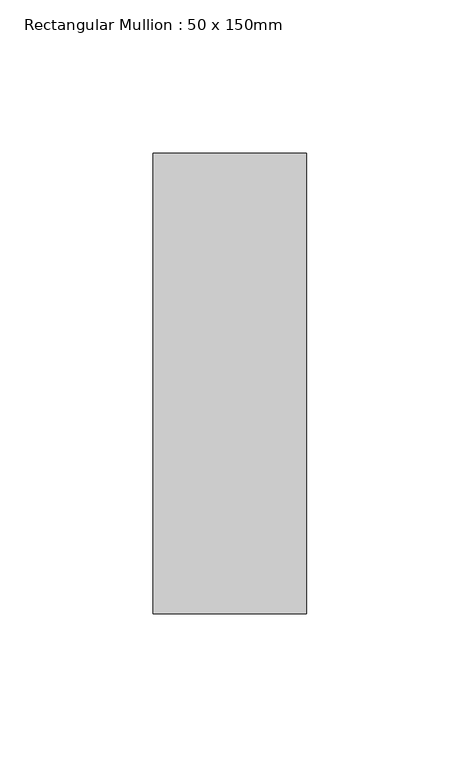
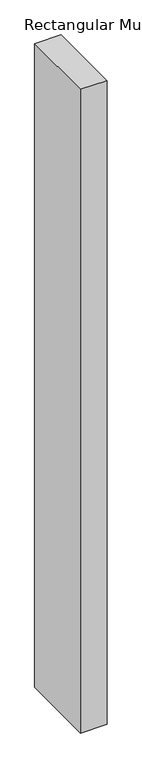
"""IFC4 building model written with IfcOpenShell, lengths in millimetres: member geometry, Rectangular Mullion : 50 x 150mm."""

import ifcopenshell
import ifcopenshell.guid

model = None  # the IFC model being written
_history = None  # IfcOwnerHistory: only IFC2X3 demands one
_inside = {}  # id of a spatial element -> (the spatial element, [elements in it])
_under = {}  # id of a project, library or spatial element -> (it, [spatial elements below it])
_declared = {}  # id of a project -> (the project, [libraries it declares])
_typed = {}  # id of a type object -> (the type object, [elements of that type])
_made_of = {}  # id of a material, layer set ... -> (it, [elements and type objects made of it])


def new_model(schema):
    """Start an empty IFC model of exactly this schema.

    Asked for "IFC4X3", IfcOpenShell would pick the latest addendum, in which some entities
    have other attributes; the version numbers below select the first issue.
    IFC2X3 requires an IfcOwnerHistory on every rooted entity: one is made here for all.
    """
    global model, _history
    if schema == "IFC4X3":
        model = ifcopenshell.file(schema_version=(4, 3, 0, 0))
    else:
        model = ifcopenshell.file(schema=schema)
    _inside.clear()
    _under.clear()
    _declared.clear()
    _typed.clear()
    _made_of.clear()
    _history = None
    if model.schema == "IFC2X3":
        org = make("IfcOrganization", Name="unknown")
        user = make(
            "IfcPersonAndOrganization",
            ThePerson=make("IfcPerson", FamilyName="unknown"),
            TheOrganization=org,
        )
        app = make(
            "IfcApplication",
            ApplicationDeveloper=org,
            Version="unknown",
            ApplicationFullName="unknown",
            ApplicationIdentifier="unknown",
        )
        _history = make(
            "IfcOwnerHistory",
            OwningUser=user,
            OwningApplication=app,
            ChangeAction="ADDED",
            CreationDate=0,
        )
    return model


def make(cls, **values):
    """One entity of the class cls with the attributes given. An attribute that is None is left unset."""
    return model.create_entity(
        cls, **{name: value for name, value in values.items() if value is not None}
    )


def rooted(cls, **values):
    """An entity with a GlobalId (a new one), such as an element, a storey or a relation."""
    return make(cls, GlobalId=ifcopenshell.guid.new(), OwnerHistory=_history, **values)


def si_unit(unit_type, name, prefix=None):
    """IfcSIUnit, for example si_unit("LENGTHUNIT", "METRE", prefix="MILLI")."""
    return make("IfcSIUnit", UnitType=unit_type, Prefix=prefix, Name=name)


def assignment(units):
    """IfcUnitAssignment: the units of a project."""
    return None if units is None else make("IfcUnitAssignment", Units=units)


def point(xyz):
    """IfcCartesianPoint."""
    return None if xyz is None else make("IfcCartesianPoint", Coordinates=xyz)


def direction(xyz):
    """IfcDirection."""
    return None if xyz is None else make("IfcDirection", DirectionRatios=xyz)


def frame(location, z_axis=None, x_axis=None):
    """IfcAxis2Placement3D, a coordinate frame: its origin and axes. An axis left out is left unset."""
    return make(
        "IfcAxis2Placement3D",
        Location=point(location),
        Axis=direction(z_axis),
        RefDirection=direction(x_axis),
    )


def origin():
    """The frame at (0, 0, 0) with its axes left unset."""
    return frame((0.0, 0.0, 0.0))


def place(relative_to, where):
    """IfcLocalPlacement: puts the frame where relative to a parent placement (None: the world)."""
    return make(
        "IfcLocalPlacement", PlacementRelTo=relative_to, RelativePlacement=where
    )


def context(
    kind, dimensions, precision=None, world=None, true_north=None, identifier=None
):
    """IfcGeometricRepresentationContext, for example the 3D "Model" context."""
    return make(
        "IfcGeometricRepresentationContext",
        ContextIdentifier=identifier,
        ContextType=kind,
        CoordinateSpaceDimension=dimensions,
        Precision=precision,
        WorldCoordinateSystem=world,
        TrueNorth=true_north,
    )


def project(units=None, contexts=None):
    """IfcProject with its units and contexts."""
    return rooted(
        "IfcProject",
        Name="project",
        RepresentationContexts=contexts,
        UnitsInContext=assignment(units),
    )


def spatial(cls, under=None, at=None, **own):
    """A site, building, storey or space (cls), placed at a placement, below another one or the project."""
    s = rooted(cls, ObjectPlacement=at, **own)
    if under is not None:
        _under.setdefault(under.id(), (under, []))[1].append(s)
    return s


def polyline(points):
    """IfcPolyline through the points."""
    return make("IfcPolyline", Points=[point(p) for p in points])


def outline(outer, holes=None, kind="AREA"):
    """IfcArbitraryClosedProfileDef: a profile drawn as a closed curve; with holes, ...WithVoids."""
    if holes is None:
        return make("IfcArbitraryClosedProfileDef", ProfileType=kind, OuterCurve=outer)
    return make(
        "IfcArbitraryProfileDefWithVoids",
        ProfileType=kind,
        OuterCurve=outer,
        InnerCurves=holes,
    )


def extrude(swept, where, along, depth):
    """IfcExtrudedAreaSolid: the profile swept, set in the frame where, extruded along a direction by depth."""
    return make(
        "IfcExtrudedAreaSolid",
        SweptArea=swept,
        Position=where,
        ExtrudedDirection=direction(along),
        Depth=depth,
    )


def shape(context_of_items, identifier, shape_type, items):
    """IfcShapeRepresentation: the items that make up one representation, for example the "Body"."""
    return make(
        "IfcShapeRepresentation",
        ContextOfItems=context_of_items,
        RepresentationIdentifier=identifier,
        RepresentationType=shape_type,
        Items=items,
    )


def source(mapping_origin, context_of_items, identifier, shape_type, items):
    """IfcRepresentationMap: a shape defined once, which mapped items show again and again."""
    return make(
        "IfcRepresentationMap",
        MappingOrigin=mapping_origin,
        MappedRepresentation=shape(context_of_items, identifier, shape_type, items),
    )


def transform(
    local_origin,
    x_axis=None,
    y_axis=None,
    z_axis=None,
    scale=None,
    scale2=None,
    scale3=None,
    uniform=True,
):
    """IfcCartesianTransformationOperator3D, or its non-uniform kind. x_axis, y_axis, z_axis: its Axis1, 2, 3."""
    if uniform:
        return make(
            "IfcCartesianTransformationOperator3D",
            Axis1=direction(x_axis),
            Axis2=direction(y_axis),
            LocalOrigin=point(local_origin),
            Scale=scale,
            Axis3=direction(z_axis),
        )
    return make(
        "IfcCartesianTransformationOperator3DnonUniform",
        Axis1=direction(x_axis),
        Axis2=direction(y_axis),
        LocalOrigin=point(local_origin),
        Scale=scale,
        Axis3=direction(z_axis),
        Scale2=scale2,
        Scale3=scale3,
    )


def mapped(mapping_source, mapping_target):
    """IfcMappedItem: shows the shape of a source again, moved by a transform."""
    return make(
        "IfcMappedItem", MappingSource=mapping_source, MappingTarget=mapping_target
    )


def made_of(thing, what):
    """Note that an element or type object is made of a material, layer set ...; save() writes the relation."""
    if what is not None:
        _made_of.setdefault(what.id(), (what, []))[1].append(thing)
    return thing


def element(
    cls,
    number,
    at=None,
    inside=None,
    cuts=None,
    type_object=None,
    material=None,
    context=None,
    identifier="Body",
    shape_type=None,
    held_by="IfcProductDefinitionShape",
    body=None,
    shapes=None,
    **own,
):
    """One element of the class cls, such as IfcWall. Its Tag is "e" and its number.

    at: its placement. inside: the storey or other place that contains it. cuts: it is an
    opening in that element (IfcRelVoidsElement). A single representation is given by context,
    identifier, shape_type and body (its items); several are given by shapes. held_by: the class
    of the entity that holds the representations. save() writes the other relations.
    """
    e = rooted(cls, Tag="e%d" % number, ObjectPlacement=at, **own)
    if body is not None:
        shapes = [shape(context, identifier, shape_type, body)]
    if shapes is not None:
        e.Representation = make(held_by, Representations=shapes)
    if inside is not None:
        _inside.setdefault(inside.id(), (inside, []))[1].append(e)
    if cuts is not None:
        rooted(
            "IfcRelVoidsElement", RelatingBuildingElement=cuts, RelatedOpeningElement=e
        )
    if type_object is not None:
        _typed.setdefault(type_object.id(), (type_object, []))[1].append(e)
    return made_of(e, material)


def aggregate(whole, parts):
    """IfcRelAggregates: a whole, such as a stair, and the parts it consists of."""
    return rooted("IfcRelAggregates", RelatingObject=whole, RelatedObjects=parts)


def save(model, path):
    """Write the relations noted so far, then the file.

    IfcRelAggregates (storeys below a building ...), IfcRelContainedInSpatialStructure (elements
    in a storey), IfcRelDefinesByType, IfcRelAssociatesMaterial and IfcRelDeclares: one each for
    every whole, place, type object, material and project.
    """
    for whole, parts in _under.values():
        aggregate(whole, parts)
    for where, things in _inside.values():
        rooted(
            "IfcRelContainedInSpatialStructure",
            RelatedElements=things,
            RelatingStructure=where,
        )
    for kind, things in _typed.values():
        rooted("IfcRelDefinesByType", RelatedObjects=things, RelatingType=kind)
    for what, things in _made_of.values():
        rooted("IfcRelAssociatesMaterial", RelatedObjects=things, RelatingMaterial=what)
    for by, libraries in _declared.values():
        rooted("IfcRelDeclares", RelatingContext=by, RelatedDefinitions=libraries)
    model.write(path)


def rectangular_mullion_50_x_150mm_1f6bab0a(model_context):
    return source(origin(), model_context, "Body", "SweptSolid", [
        extrude(outline(polyline([(0.0, 0.0), (0.1592799, -50.0), (-1283.8878555, -50.0), (-1283.7891945, 0.0), (0.0, 0.0)])), frame((0.0, -75.0, 0.0), z_axis=(0.0, 1.0, 0.0), x_axis=(0.0, 0.0, 1.0)), (0.0, 0.0, 1.0), 150.0),
    ])


if __name__ == "__main__":
    model = new_model("IFC4")
    model_context = context("Model", 3, world=origin())
    ifc_project = project(units=[si_unit("LENGTHUNIT", "METRE", prefix="MILLI")], contexts=[model_context])
    site = spatial("IfcSite", under=ifc_project)
    building = spatial("IfcBuilding", under=site)
    placement = place(None, origin())
    rectangular_mullion_50_x_150mm_shape = rectangular_mullion_50_x_150mm_1f6bab0a(model_context)
    element("IfcMember", 1, ObjectType="Rectangular Mullion : 50 x 150mm", at=placement, inside=building, context=model_context, shape_type="MappedRepresentation", body=[
        mapped(rectangular_mullion_50_x_150mm_shape, transform((0.0, 0.0, 0.0), x_axis=(1.0, 0.0, 0.0), y_axis=(0.0, 1.0, 0.0), z_axis=(0.0, 0.0, 1.0))),
    ])
    save(model, "model.ifc")
